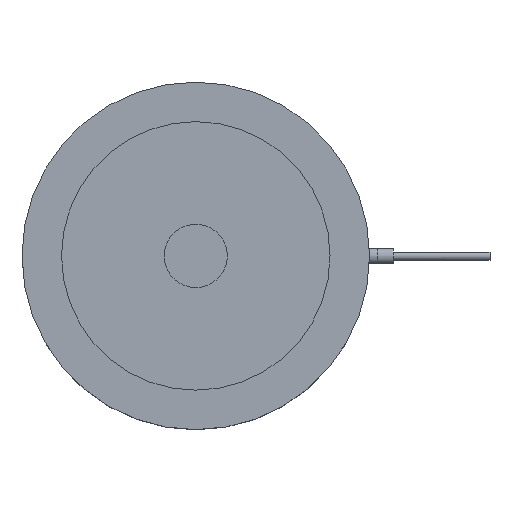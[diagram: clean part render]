
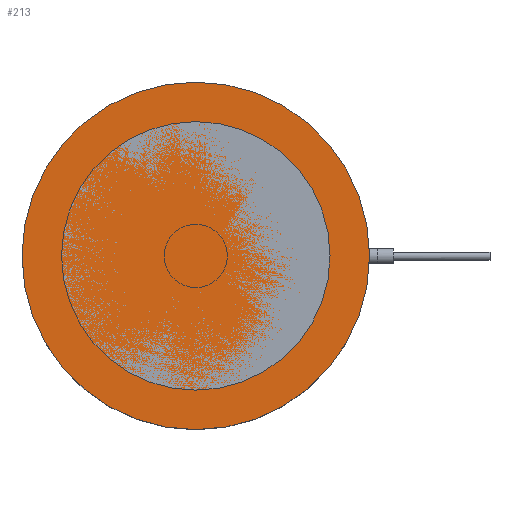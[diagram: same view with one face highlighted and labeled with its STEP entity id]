
A CAD part, top view. The second image highlights one B-rep face of the part: STEP entity #213.
In plain terms, the highlighted planar face has unit normal (0, 0, 1).
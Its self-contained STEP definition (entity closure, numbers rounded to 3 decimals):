
#213=ADVANCED_FACE('',(#308),#279,.F.);
#279=PLANE('',#1007);
#308=FACE_OUTER_BOUND('',#426,.T.);
#426=EDGE_LOOP('',(#538));
#538=ORIENTED_EDGE('',*,*,#832,.F.);
#748=VERTEX_POINT('',#1434);
#832=EDGE_CURVE('',#748,#748,#938,.T.);
#938=CIRCLE('',#1006,22.);
#1006=AXIS2_PLACEMENT_3D('',#1433,#1148,#1149);
#1007=AXIS2_PLACEMENT_3D('',#1435,#1150,#1151);
#1148=DIRECTION('',(0.,0.,-1.));
#1149=DIRECTION('',(-1.,0.,0.));
#1150=DIRECTION('',(0.,0.,-1.));
#1151=DIRECTION('',(-1.,0.,0.));
#1433=CARTESIAN_POINT('',(0.,0.,0.));
#1434=CARTESIAN_POINT('',(-22.,0.,0.));
#1435=CARTESIAN_POINT('',(0.,0.,0.));
